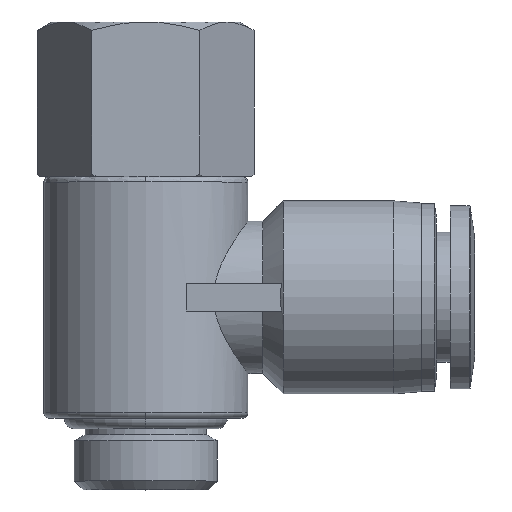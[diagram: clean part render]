
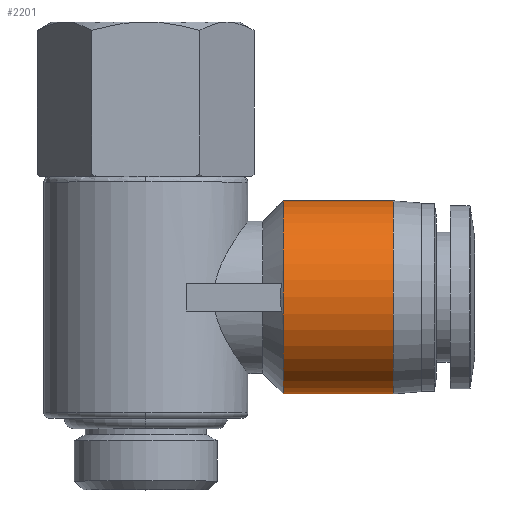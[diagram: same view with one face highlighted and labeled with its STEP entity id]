
A CAD part, top view. The second image highlights one B-rep face of the part: STEP entity #2201.
In plain terms, the highlighted cylindrical face has radius 8.75 mm (diameter 17.5 mm), a partial arc.
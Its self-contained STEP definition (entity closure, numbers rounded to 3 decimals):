
#122 = DIRECTION ( 'NONE',  ( 0., -1., 0. ) ) ;
#332 = DIRECTION ( 'NONE',  ( 0., -1., 0. ) ) ;
#372 = CARTESIAN_POINT ( 'NONE',  ( 17.45, 36.2, 0. ) ) ;
#422 = DIRECTION ( 'NONE',  ( -1., 0., 0. ) ) ;
#535 = EDGE_CURVE ( 'NONE', #708, #2974, #2338, .T. ) ;
#708 = VERTEX_POINT ( 'NONE', #2312 ) ;
#765 = CARTESIAN_POINT ( 'NONE',  ( 22.45, 18.7, 0. ) ) ;
#782 = DIRECTION ( 'NONE',  ( -1., 0., 0. ) ) ;
#787 = CARTESIAN_POINT ( 'NONE',  ( 12.45, 27.45, 0. ) ) ;
#810 = EDGE_LOOP ( 'NONE', ( #1727, #1586, #2598, #2103 ) ) ;
#1258 = EDGE_CURVE ( 'NONE', #2965, #2974, #2708, .T. ) ;
#1354 = DIRECTION ( 'NONE',  ( 0., -1., 0. ) ) ;
#1418 = DIRECTION ( 'NONE',  ( -1., 0., 0. ) ) ;
#1515 = CIRCLE ( 'NONE', #1663, 8.75 ) ;
#1586 = ORIENTED_EDGE ( 'NONE', *, *, #1258, .T. ) ;
#1631 = CARTESIAN_POINT ( 'NONE',  ( 12.45, 36.2, 0. ) ) ;
#1663 = AXIS2_PLACEMENT_3D ( 'NONE', #2530, #422, #1354 ) ;
#1727 = ORIENTED_EDGE ( 'NONE', *, *, #2986, .T. ) ;
#1732 = VERTEX_POINT ( 'NONE', #765 ) ;
#1772 = CYLINDRICAL_SURFACE ( 'NONE', #1879, 8.75 ) ;
#1843 = VECTOR ( 'NONE', #782, 1000. ) ;
#1846 = CARTESIAN_POINT ( 'NONE',  ( 17.45, 18.7, 0. ) ) ;
#1879 = AXIS2_PLACEMENT_3D ( 'NONE', #2003, #2945, #122 ) ;
#2003 = CARTESIAN_POINT ( 'NONE',  ( 17.45, 27.45, 0. ) ) ;
#2103 = ORIENTED_EDGE ( 'NONE', *, *, #2414, .F. ) ;
#2108 = VECTOR ( 'NONE', #1418, 1000. ) ;
#2201 = ADVANCED_FACE ( 'NONE', ( #2931 ), #1772, .T. ) ;
#2241 = AXIS2_PLACEMENT_3D ( 'NONE', #787, #2435, #332 ) ;
#2312 = CARTESIAN_POINT ( 'NONE',  ( 12.45, 18.7, 0. ) ) ;
#2338 = CIRCLE ( 'NONE', #2241, 8.75 ) ;
#2414 = EDGE_CURVE ( 'NONE', #1732, #708, #2792, .T. ) ;
#2435 = DIRECTION ( 'NONE',  ( -1., 0., 0. ) ) ;
#2530 = CARTESIAN_POINT ( 'NONE',  ( 22.45, 27.45, 0. ) ) ;
#2598 = ORIENTED_EDGE ( 'NONE', *, *, #535, .F. ) ;
#2708 = LINE ( 'NONE', #372, #1843 ) ;
#2792 = LINE ( 'NONE', #1846, #2108 ) ;
#2801 = CARTESIAN_POINT ( 'NONE',  ( 22.45, 36.2, 0. ) ) ;
#2931 = FACE_OUTER_BOUND ( 'NONE', #810, .T. ) ;
#2945 = DIRECTION ( 'NONE',  ( -1., 0., 0. ) ) ;
#2965 = VERTEX_POINT ( 'NONE', #2801 ) ;
#2974 = VERTEX_POINT ( 'NONE', #1631 ) ;
#2986 = EDGE_CURVE ( 'NONE', #1732, #2965, #1515, .T. ) ;
